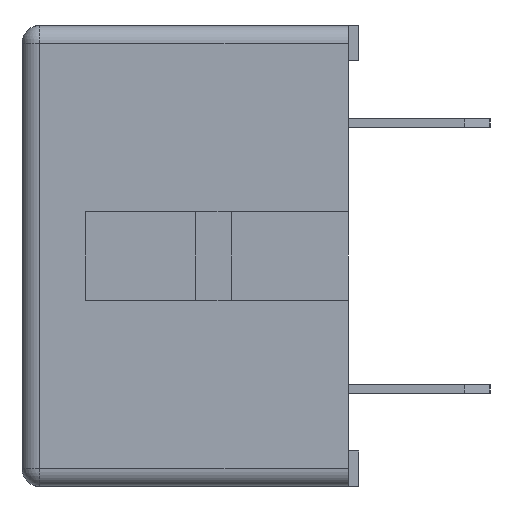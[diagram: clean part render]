
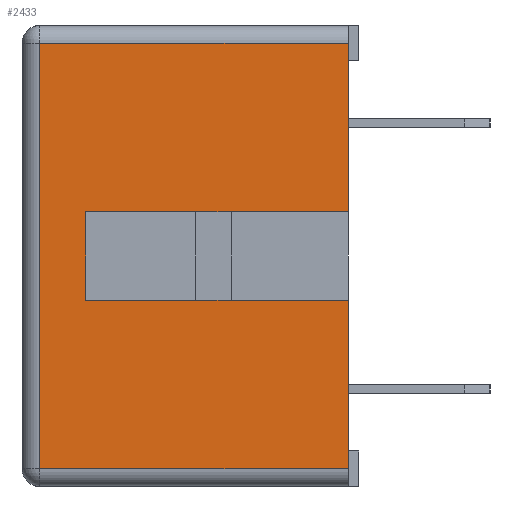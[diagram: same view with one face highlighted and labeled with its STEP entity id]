
A CAD part, left-side view. The second image highlights one B-rep face of the part: STEP entity #2433.
In plain terms, the highlighted planar face has unit normal (-1, 0, 0).
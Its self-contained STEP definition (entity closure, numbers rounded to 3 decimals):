
#135=FACE_OUTER_BOUND('',#275,.T.);
#275=EDGE_LOOP('',(#1765,#1766,#1767,#1768,#1769,#1770,#1771,#1772));
#449=LINE('',#3495,#771);
#455=LINE('',#3521,#777);
#490=LINE('',#3598,#812);
#492=LINE('',#3604,#814);
#493=LINE('',#3606,#815);
#494=LINE('',#3608,#816);
#495=LINE('',#3610,#817);
#496=LINE('',#3611,#818);
#771=VECTOR('',#2823,10.);
#777=VECTOR('',#2853,10.);
#812=VECTOR('',#2920,10.);
#814=VECTOR('',#2928,10.);
#815=VECTOR('',#2929,10.);
#816=VECTOR('',#2930,10.);
#817=VECTOR('',#2931,10.);
#818=VECTOR('',#2932,10.);
#1082=VERTEX_POINT('',#3488);
#1085=VERTEX_POINT('',#3493);
#1093=VERTEX_POINT('',#3519);
#1119=VERTEX_POINT('',#3596);
#1120=VERTEX_POINT('',#3603);
#1121=VERTEX_POINT('',#3605);
#1122=VERTEX_POINT('',#3607);
#1123=VERTEX_POINT('',#3609);
#1321=EDGE_CURVE('',#1085,#1082,#449,.T.);
#1334=EDGE_CURVE('',#1093,#1085,#455,.T.);
#1377=EDGE_CURVE('',#1119,#1093,#490,.T.);
#1380=EDGE_CURVE('',#1119,#1120,#492,.T.);
#1381=EDGE_CURVE('',#1120,#1121,#493,.T.);
#1382=EDGE_CURVE('',#1121,#1122,#494,.T.);
#1383=EDGE_CURVE('',#1122,#1123,#495,.T.);
#1384=EDGE_CURVE('',#1123,#1082,#496,.T.);
#1765=ORIENTED_EDGE('',*,*,#1321,.F.);
#1766=ORIENTED_EDGE('',*,*,#1334,.F.);
#1767=ORIENTED_EDGE('',*,*,#1377,.F.);
#1768=ORIENTED_EDGE('',*,*,#1380,.T.);
#1769=ORIENTED_EDGE('',*,*,#1381,.T.);
#1770=ORIENTED_EDGE('',*,*,#1382,.T.);
#1771=ORIENTED_EDGE('',*,*,#1383,.T.);
#1772=ORIENTED_EDGE('',*,*,#1384,.T.);
#2303=PLANE('',#2603);
#2433=ADVANCED_FACE('',(#135),#2303,.T.);
#2603=AXIS2_PLACEMENT_3D('',#3602,#2926,#2927);
#2823=DIRECTION('',(0.,-1.,0.));
#2853=DIRECTION('',(0.,0.,1.));
#2920=DIRECTION('',(0.,1.,0.));
#2926=DIRECTION('center_axis',(-1.,0.,0.));
#2927=DIRECTION('ref_axis',(0.,0.,1.));
#2928=DIRECTION('',(0.,0.,1.));
#2929=DIRECTION('',(0.,1.,0.));
#2930=DIRECTION('',(0.,0.,1.));
#2931=DIRECTION('',(0.,-1.,0.));
#2932=DIRECTION('',(0.,0.,1.));
#3488=CARTESIAN_POINT('',(0.,-9.2,12.5));
#3493=CARTESIAN_POINT('',(0.,-0.5,12.5));
#3495=CARTESIAN_POINT('',(0.,-6.802,12.5));
#3519=CARTESIAN_POINT('',(0.,-0.5,0.5));
#3521=CARTESIAN_POINT('',(0.,-0.5,0.));
#3596=CARTESIAN_POINT('',(0.,-9.2,0.5));
#3598=CARTESIAN_POINT('',(0.,-6.802,0.5));
#3602=CARTESIAN_POINT('Origin',(0.,-9.2,0.));
#3603=CARTESIAN_POINT('',(0.,-9.2,5.25));
#3604=CARTESIAN_POINT('',(0.,-9.2,0.));
#3605=CARTESIAN_POINT('',(0.,-1.8,5.25));
#3606=CARTESIAN_POINT('',(0.,-5.5,5.25));
#3607=CARTESIAN_POINT('',(0.,-1.8,7.75));
#3608=CARTESIAN_POINT('',(0.,-1.8,3.875));
#3609=CARTESIAN_POINT('',(0.,-9.2,7.75));
#3610=CARTESIAN_POINT('',(0.,-9.2,7.75));
#3611=CARTESIAN_POINT('',(0.,-9.2,0.));
